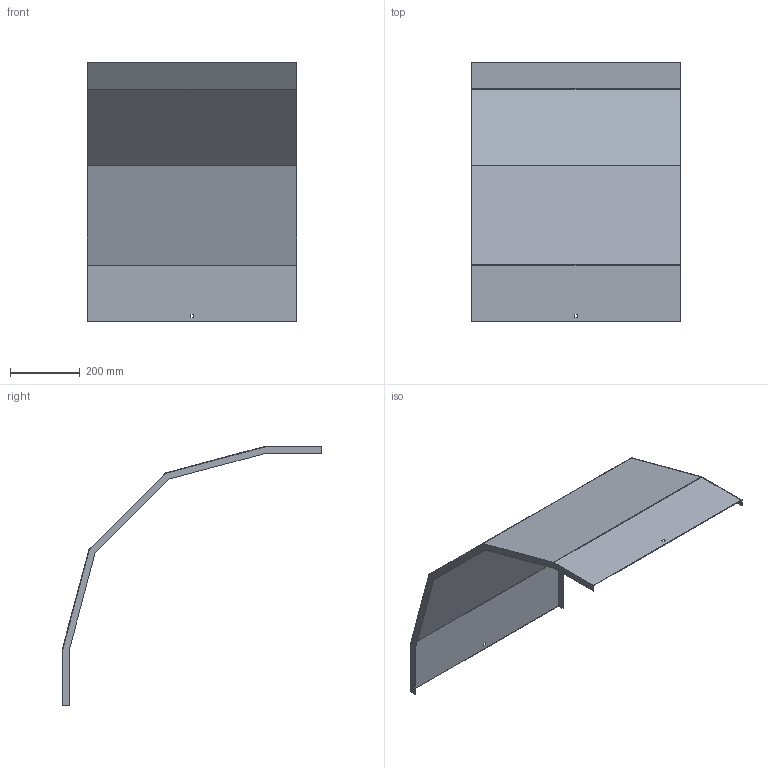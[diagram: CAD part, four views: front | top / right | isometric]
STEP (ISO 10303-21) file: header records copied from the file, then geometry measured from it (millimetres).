
FILE_DESCRIPTION (( 'STEP AP214' ), '1' );
FILE_NAME ('33N5C600.step', '2025-02-21T10:42:55', ( '' ), ( '' ), 'SwSTEP 2.0', 'SolidWorks 2023', '' );
FILE_SCHEMA (( 'AUTOMOTIVE_DESIGN' ));
Length unit declared in the file: millimetre
Products named in the file (1): 33N5C600
Bounding box: 603 x 745.38 x 745.38 mm (x, y, z)
Volume: 1177595.9 mm3; surface area: 1575735.5 mm2
Topology: 1 solids, 1 shells, 34 faces, 96 edges, 64 vertices
Faces by surface type: plane 34
Entity records: 1111 total; most frequent: CARTESIAN_POINT 195, ORIENTED_EDGE 192, DIRECTION 166, EDGE_CURVE 96, VECTOR 96, LINE 96, VERTEX_POINT 64, EDGE_LOOP 38
